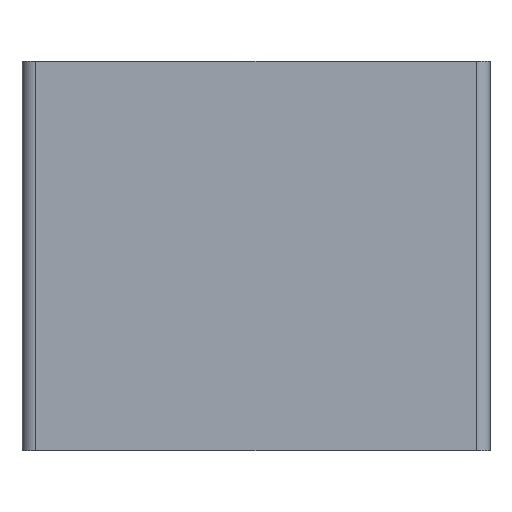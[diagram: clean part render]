
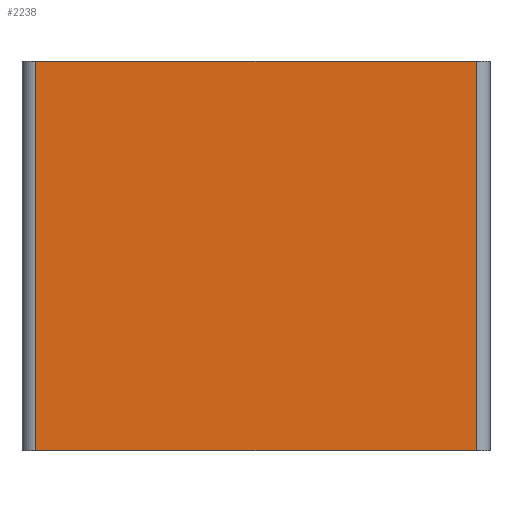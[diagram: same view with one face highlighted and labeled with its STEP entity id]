
A CAD part, front view. The second image highlights one B-rep face of the part: STEP entity #2238.
In plain terms, the highlighted planar face has unit normal (0, -1, 0).
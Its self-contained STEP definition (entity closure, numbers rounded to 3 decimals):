
#44 = PLANE('',#45);
#45 = AXIS2_PLACEMENT_3D('',#46,#47,#48);
#46 = CARTESIAN_POINT('',(-9.55,-4.3,7.95));
#47 = DIRECTION('',(0.,0.,1.));
#48 = DIRECTION('',(1.,0.,0.));
#72 = CYLINDRICAL_SURFACE('',#73,0.56);
#73 = AXIS2_PLACEMENT_3D('',#74,#75,#76);
#74 = CARTESIAN_POINT('',(-8.99,-3.74,-7.95));
#75 = DIRECTION('',(0.,0.,1.));
#76 = DIRECTION('',(-1.,-0.,0.));
#100 = PLANE('',#101);
#101 = AXIS2_PLACEMENT_3D('',#102,#103,#104);
#102 = CARTESIAN_POINT('',(-9.55,-4.3,-7.95));
#103 = DIRECTION('',(0.,0.,1.));
#104 = DIRECTION('',(1.,0.,0.));
#143 = VERTEX_POINT('',#144);
#144 = CARTESIAN_POINT('',(-8.99,-4.3,7.95));
#166 = EDGE_CURVE('',#143,#167,#169,.T.);
#167 = VERTEX_POINT('',#168);
#168 = CARTESIAN_POINT('',(8.99,-4.3,7.95));
#169 = SURFACE_CURVE('',#170,(#174,#181),.PCURVE_S1.);
#170 = LINE('',#171,#172);
#171 = CARTESIAN_POINT('',(-9.55,-4.3,7.95));
#172 = VECTOR('',#173,1.);
#173 = DIRECTION('',(1.,0.,0.));
#174 = PCURVE('',#44,#175);
#175 = DEFINITIONAL_REPRESENTATION('',(#176),#180);
#176 = LINE('',#177,#178);
#177 = CARTESIAN_POINT('',(0.,0.));
#178 = VECTOR('',#179,1.);
#179 = DIRECTION('',(1.,0.));
#180 = ( GEOMETRIC_REPRESENTATION_CONTEXT(2) 
PARAMETRIC_REPRESENTATION_CONTEXT() REPRESENTATION_CONTEXT('2D SPACE',''
  ) );
#181 = PCURVE('',#182,#187);
#182 = PLANE('',#183);
#183 = AXIS2_PLACEMENT_3D('',#184,#185,#186);
#184 = CARTESIAN_POINT('',(-9.55,-4.3,-7.95));
#185 = DIRECTION('',(0.,1.,0.));
#186 = DIRECTION('',(0.,0.,1.));
#187 = DEFINITIONAL_REPRESENTATION('',(#188),#192);
#188 = LINE('',#189,#190);
#189 = CARTESIAN_POINT('',(15.9,0.));
#190 = VECTOR('',#191,1.);
#191 = DIRECTION('',(0.,1.));
#192 = ( GEOMETRIC_REPRESENTATION_CONTEXT(2) 
PARAMETRIC_REPRESENTATION_CONTEXT() REPRESENTATION_CONTEXT('2D SPACE',''
  ) );
#211 = CYLINDRICAL_SURFACE('',#212,0.56);
#212 = AXIS2_PLACEMENT_3D('',#213,#214,#215);
#213 = CARTESIAN_POINT('',(8.99,-3.74,-7.95));
#214 = DIRECTION('',(0.,0.,1.));
#215 = DIRECTION('',(0.,-1.,0.));
#1258 = VERTEX_POINT('',#1259);
#1259 = CARTESIAN_POINT('',(-8.99,-4.3,-7.95));
#1281 = EDGE_CURVE('',#1258,#143,#1282,.T.);
#1282 = SURFACE_CURVE('',#1283,(#1287,#1294),.PCURVE_S1.);
#1283 = LINE('',#1284,#1285);
#1284 = CARTESIAN_POINT('',(-8.99,-4.3,-7.95));
#1285 = VECTOR('',#1286,1.);
#1286 = DIRECTION('',(0.,0.,1.));
#1287 = PCURVE('',#72,#1288);
#1288 = DEFINITIONAL_REPRESENTATION('',(#1289),#1293);
#1289 = LINE('',#1290,#1291);
#1290 = CARTESIAN_POINT('',(1.571,0.));
#1291 = VECTOR('',#1292,1.);
#1292 = DIRECTION('',(0.,1.));
#1293 = ( GEOMETRIC_REPRESENTATION_CONTEXT(2) 
PARAMETRIC_REPRESENTATION_CONTEXT() REPRESENTATION_CONTEXT('2D SPACE',''
  ) );
#1294 = PCURVE('',#182,#1295);
#1295 = DEFINITIONAL_REPRESENTATION('',(#1296),#1300);
#1296 = LINE('',#1297,#1298);
#1297 = CARTESIAN_POINT('',(0.,0.56));
#1298 = VECTOR('',#1299,1.);
#1299 = DIRECTION('',(1.,0.));
#1300 = ( GEOMETRIC_REPRESENTATION_CONTEXT(2) 
PARAMETRIC_REPRESENTATION_CONTEXT() REPRESENTATION_CONTEXT('2D SPACE',''
  ) );
#1363 = EDGE_CURVE('',#1258,#1364,#1366,.T.);
#1364 = VERTEX_POINT('',#1365);
#1365 = CARTESIAN_POINT('',(8.99,-4.3,-7.95));
#1366 = SURFACE_CURVE('',#1367,(#1371,#1378),.PCURVE_S1.);
#1367 = LINE('',#1368,#1369);
#1368 = CARTESIAN_POINT('',(-9.55,-4.3,-7.95));
#1369 = VECTOR('',#1370,1.);
#1370 = DIRECTION('',(1.,0.,0.));
#1371 = PCURVE('',#100,#1372);
#1372 = DEFINITIONAL_REPRESENTATION('',(#1373),#1377);
#1373 = LINE('',#1374,#1375);
#1374 = CARTESIAN_POINT('',(0.,0.));
#1375 = VECTOR('',#1376,1.);
#1376 = DIRECTION('',(1.,0.));
#1377 = ( GEOMETRIC_REPRESENTATION_CONTEXT(2) 
PARAMETRIC_REPRESENTATION_CONTEXT() REPRESENTATION_CONTEXT('2D SPACE',''
  ) );
#1378 = PCURVE('',#182,#1379);
#1379 = DEFINITIONAL_REPRESENTATION('',(#1380),#1384);
#1380 = LINE('',#1381,#1382);
#1381 = CARTESIAN_POINT('',(0.,0.));
#1382 = VECTOR('',#1383,1.);
#1383 = DIRECTION('',(0.,1.));
#1384 = ( GEOMETRIC_REPRESENTATION_CONTEXT(2) 
PARAMETRIC_REPRESENTATION_CONTEXT() REPRESENTATION_CONTEXT('2D SPACE',''
  ) );
#2238 = ADVANCED_FACE('',(#2239),#182,.F.);
#2239 = FACE_BOUND('',#2240,.F.);
#2240 = EDGE_LOOP('',(#2241,#2242,#2243,#2244));
#2241 = ORIENTED_EDGE('',*,*,#1363,.F.);
#2242 = ORIENTED_EDGE('',*,*,#1281,.T.);
#2243 = ORIENTED_EDGE('',*,*,#166,.T.);
#2244 = ORIENTED_EDGE('',*,*,#2245,.F.);
#2245 = EDGE_CURVE('',#1364,#167,#2246,.T.);
#2246 = SURFACE_CURVE('',#2247,(#2251,#2258),.PCURVE_S1.);
#2247 = LINE('',#2248,#2249);
#2248 = CARTESIAN_POINT('',(8.99,-4.3,-7.95));
#2249 = VECTOR('',#2250,1.);
#2250 = DIRECTION('',(0.,0.,1.));
#2251 = PCURVE('',#182,#2252);
#2252 = DEFINITIONAL_REPRESENTATION('',(#2253),#2257);
#2253 = LINE('',#2254,#2255);
#2254 = CARTESIAN_POINT('',(0.,18.54));
#2255 = VECTOR('',#2256,1.);
#2256 = DIRECTION('',(1.,0.));
#2257 = ( GEOMETRIC_REPRESENTATION_CONTEXT(2) 
PARAMETRIC_REPRESENTATION_CONTEXT() REPRESENTATION_CONTEXT('2D SPACE',''
  ) );
#2258 = PCURVE('',#211,#2259);
#2259 = DEFINITIONAL_REPRESENTATION('',(#2260),#2264);
#2260 = LINE('',#2261,#2262);
#2261 = CARTESIAN_POINT('',(0.,0.));
#2262 = VECTOR('',#2263,1.);
#2263 = DIRECTION('',(0.,1.));
#2264 = ( GEOMETRIC_REPRESENTATION_CONTEXT(2) 
PARAMETRIC_REPRESENTATION_CONTEXT() REPRESENTATION_CONTEXT('2D SPACE',''
  ) );
